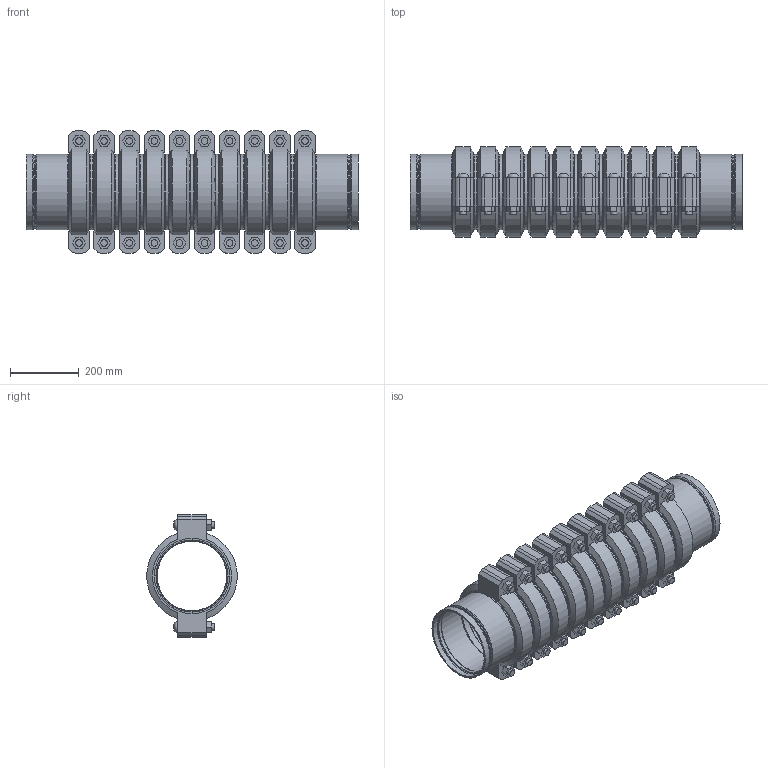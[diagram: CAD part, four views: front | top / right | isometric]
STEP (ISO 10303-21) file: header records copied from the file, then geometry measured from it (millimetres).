
FILE_DESCRIPTION(/* description */ ('VIC STRENGTHIN 100 EXPANSION JOINT 10 COUPLINGS NEUTRAL STYLE E155 (ST1)','CAx-IF Rec.Pracs.---Representation and Presentation of Product Manufacturing Information (PMI)---4.0---2014-10-13'),/* implementation_level */ '2;1');
FILE_NAME(/* name */ 'C:\Users\Vjadhav\AppData\Roaming\Autodesk\ApplicationPlugins\Victaulic.Temp\A165\Victaulic_SS-StrengThin 100_Expansion Joint_Neutral_10 Couplings_Style E155 (ST1)_10 Coup_Neut_8 (200).stp',/* time_stamp */ '2021-07-20T17:40:06+05:00',/* author */ ('kkamble'),/* organization */ ('Victaulic'),/* preprocessor_version */ 'ST-DEVELOPER v17.2',/* originating_system */ 'Autodesk Inventor 2019',/* authorisation */ '');
FILE_SCHEMA (('AP242_MANAGED_MODEL_BASED_3D_ENGINEERING_MIM_LF { 1 0 10303 442 1 1 4 }'));
Length unit declared in the file: inch
Products named in the file (4): E155-08.0; E494G-08.0; Nipple-08.0; 075-08.0
Assembly tree (21 placements, depth 2):
  E155-08.0
    E494G-08.0  x2
    Nipple-08.0  x9
    075-08.0  x10
Bounding box: 965.2 x 261.72 x 354.84 mm (x, y, z)
Volume: 17831959.8 mm3; surface area: 3132455 mm2
Topology: 21 solids, 41 shells, 748 faces, 1830 edges, 1290 vertices
Faces by surface type: plane 428, cylinder 224, cone 44, torus 32, bspline 20
Full cylindrical faces by diameter (mm): 19.05 x40, 21.209 x20, 201.651 x2, 202.717 x9, 204.851 x2, 209.525 x6, 211.201 x2, 212.725 x10, 214.401 x20, 219.075 x53
Entity records: 3881 total; most frequent: DIRECTION 695, CARTESIAN_POINT 676, ORIENTED_EDGE 556, AXIS2_PLACEMENT_3D 298, EDGE_CURVE 278, VERTEX_POINT 201, CIRCLE 171, EDGE_LOOP 131
